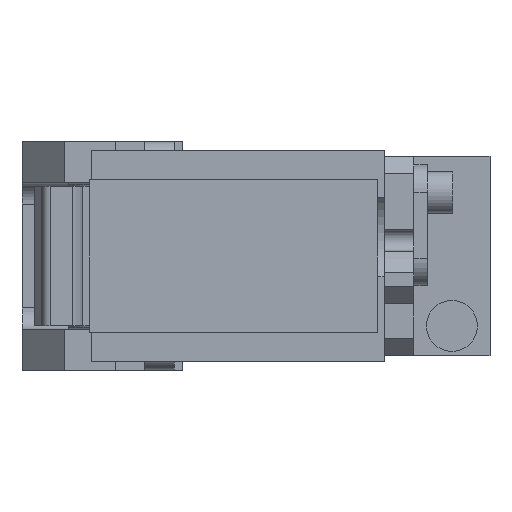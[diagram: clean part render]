
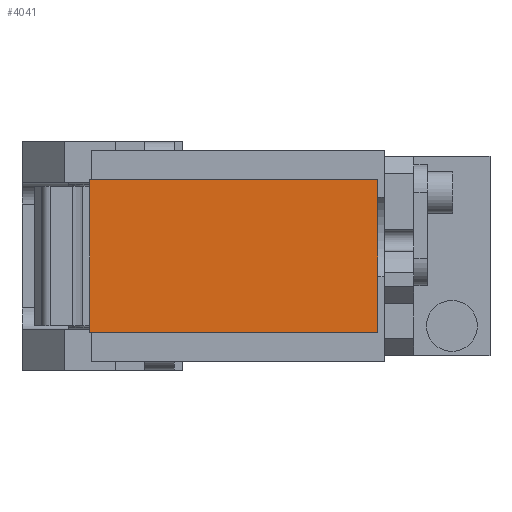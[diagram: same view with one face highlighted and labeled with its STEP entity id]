
A CAD part, front view. The second image highlights one B-rep face of the part: STEP entity #4041.
In plain terms, the highlighted planar face has unit normal (0, -1, 0).
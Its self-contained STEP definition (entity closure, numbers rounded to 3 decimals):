
#291 = CARTESIAN_POINT ( 'NONE',  ( -6., -233., 18. ) ) ;
#593 = CARTESIAN_POINT ( 'NONE',  ( -6., -233., 18. ) ) ;
#891 = ORIENTED_EDGE ( 'NONE', *, *, #8038, .T. ) ;
#895 = CARTESIAN_POINT ( 'NONE',  ( 62., -233., 18. ) ) ;
#985 = EDGE_CURVE ( 'NONE', #1269, #10217, #13903, .T. ) ;
#1101 = CARTESIAN_POINT ( 'NONE',  ( -6., -233., -18. ) ) ;
#1269 = VERTEX_POINT ( 'NONE', #9078 ) ;
#1545 = FACE_OUTER_BOUND ( 'NONE', #11612, .T. ) ;
#2990 = DIRECTION ( 'NONE',  ( -1., 0., 0. ) ) ;
#3379 = DIRECTION ( 'NONE',  ( 0., -1., 0. ) ) ;
#3589 = AXIS2_PLACEMENT_3D ( 'NONE', #11071, #3379, #5638 ) ;
#3814 = VECTOR ( 'NONE', #11043, 1000. ) ;
#3999 = VECTOR ( 'NONE', #4857, 1000. ) ;
#4041 = ADVANCED_FACE ( 'NONE', ( #1545 ), #10916, .T. ) ;
#4857 = DIRECTION ( 'NONE',  ( 1., 0., 0. ) ) ;
#4873 = VECTOR ( 'NONE', #2990, 1000. ) ;
#5638 = DIRECTION ( 'NONE',  ( 0., 0., -1. ) ) ;
#6067 = ORIENTED_EDGE ( 'NONE', *, *, #10423, .T. ) ;
#6566 = LINE ( 'NONE', #11294, #3999 ) ;
#6981 = VECTOR ( 'NONE', #12769, 1000. ) ;
#7235 = CARTESIAN_POINT ( 'NONE',  ( -6., -233., 18. ) ) ;
#8038 = EDGE_CURVE ( 'NONE', #10217, #12400, #8400, .T. ) ;
#8400 = LINE ( 'NONE', #7235, #4873 ) ;
#8714 = ORIENTED_EDGE ( 'NONE', *, *, #12119, .T. ) ;
#9078 = CARTESIAN_POINT ( 'NONE',  ( 62., -233., -18. ) ) ;
#9084 = CARTESIAN_POINT ( 'NONE',  ( 62., -233., 18. ) ) ;
#10217 = VERTEX_POINT ( 'NONE', #9084 ) ;
#10364 = ORIENTED_EDGE ( 'NONE', *, *, #985, .T. ) ;
#10423 = EDGE_CURVE ( 'NONE', #12400, #11356, #11323, .T. ) ;
#10916 = PLANE ( 'NONE',  #3589 ) ;
#11043 = DIRECTION ( 'NONE',  ( 0., 0., -1. ) ) ;
#11071 = CARTESIAN_POINT ( 'NONE',  ( 0., -233., 0. ) ) ;
#11294 = CARTESIAN_POINT ( 'NONE',  ( -6., -233., -18. ) ) ;
#11323 = LINE ( 'NONE', #291, #3814 ) ;
#11356 = VERTEX_POINT ( 'NONE', #1101 ) ;
#11612 = EDGE_LOOP ( 'NONE', ( #6067, #8714, #10364, #891 ) ) ;
#12119 = EDGE_CURVE ( 'NONE', #11356, #1269, #6566, .T. ) ;
#12400 = VERTEX_POINT ( 'NONE', #593 ) ;
#12769 = DIRECTION ( 'NONE',  ( 0., 0., 1. ) ) ;
#13903 = LINE ( 'NONE', #895, #6981 ) ;
